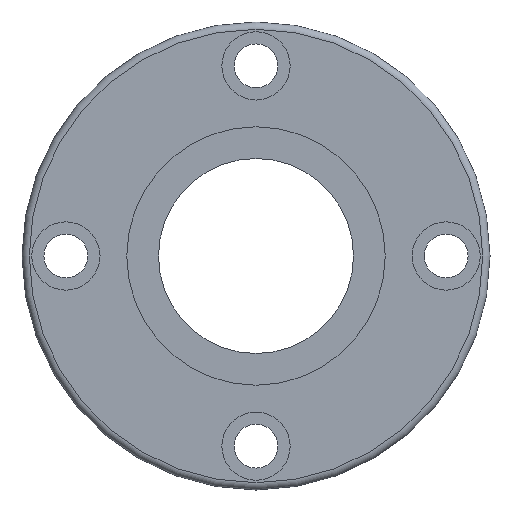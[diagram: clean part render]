
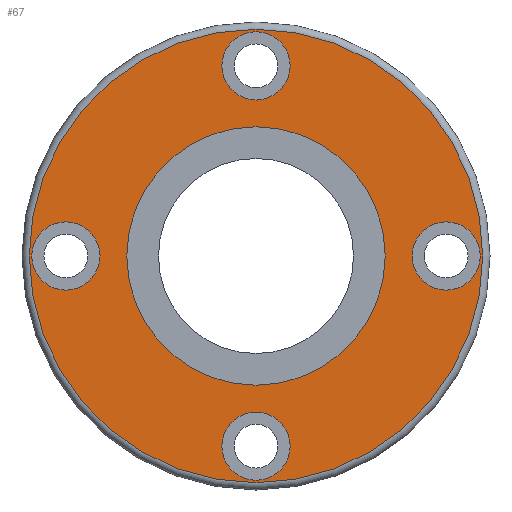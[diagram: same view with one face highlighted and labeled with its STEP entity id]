
A CAD part, left-side view. The second image highlights one B-rep face of the part: STEP entity #67.
In plain terms, the highlighted planar face has unit normal (-1, 0, 0).
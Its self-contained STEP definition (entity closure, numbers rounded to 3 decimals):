
#67 = ADVANCED_FACE( '', ( #154, #155, #156, #157, #158, #159 ), #160, .T. );
#154 = FACE_BOUND( '', #277, .T. );
#155 = FACE_BOUND( '', #278, .T. );
#156 = FACE_BOUND( '', #279, .T. );
#157 = FACE_BOUND( '', #280, .T. );
#158 = FACE_BOUND( '', #281, .T. );
#159 = FACE_OUTER_BOUND( '', #282, .T. );
#160 = PLANE( '', #283 );
#277 = EDGE_LOOP( '', ( #410 ) );
#278 = EDGE_LOOP( '', ( #411 ) );
#279 = EDGE_LOOP( '', ( #412 ) );
#280 = EDGE_LOOP( '', ( #413 ) );
#281 = EDGE_LOOP( '', ( #414 ) );
#282 = EDGE_LOOP( '', ( #415 ) );
#283 = AXIS2_PLACEMENT_3D( '', #416, #417, #418 );
#410 = ORIENTED_EDGE( '', *, *, #554, .T. );
#411 = ORIENTED_EDGE( '', *, *, #555, .T. );
#412 = ORIENTED_EDGE( '', *, *, #544, .T. );
#413 = ORIENTED_EDGE( '', *, *, #556, .T. );
#414 = ORIENTED_EDGE( '', *, *, #557, .F. );
#415 = ORIENTED_EDGE( '', *, *, #558, .T. );
#416 = CARTESIAN_POINT( '', ( 0., 37.15, 0. ) );
#417 = DIRECTION( '', ( -1., 0., 0. ) );
#418 = DIRECTION( '', ( 0., 1., 0. ) );
#544 = EDGE_CURVE( '', #610, #610, #611, .T. );
#554 = EDGE_CURVE( '', #626, #626, #627, .T. );
#555 = EDGE_CURVE( '', #628, #628, #629, .T. );
#556 = EDGE_CURVE( '', #630, #630, #631, .T. );
#557 = EDGE_CURVE( '', #632, #632, #633, .T. );
#558 = EDGE_CURVE( '', #634, #634, #635, .T. );
#610 = VERTEX_POINT( '', #699 );
#611 = CIRCLE( '', #700, 7. );
#626 = VERTEX_POINT( '', #715 );
#627 = CIRCLE( '', #716, 7. );
#628 = VERTEX_POINT( '', #717 );
#629 = CIRCLE( '', #718, 7. );
#630 = VERTEX_POINT( '', #719 );
#631 = CIRCLE( '', #720, 7. );
#632 = VERTEX_POINT( '', #721 );
#633 = CIRCLE( '', #722, 26.5 );
#634 = VERTEX_POINT( '', #723 );
#635 = CIRCLE( '', #724, 46.5 );
#699 = CARTESIAN_POINT( '', ( 0., -46., 0. ) );
#700 = AXIS2_PLACEMENT_3D( '', #791, #792, #793 );
#715 = CARTESIAN_POINT( '', ( 0., 0., -46. ) );
#716 = AXIS2_PLACEMENT_3D( '', #809, #810, #811 );
#717 = CARTESIAN_POINT( '', ( 0., 0., 46. ) );
#718 = AXIS2_PLACEMENT_3D( '', #812, #813, #814 );
#719 = CARTESIAN_POINT( '', ( 0., 46., 0. ) );
#720 = AXIS2_PLACEMENT_3D( '', #815, #816, #817 );
#721 = CARTESIAN_POINT( '', ( 0., 26.5, 0. ) );
#722 = AXIS2_PLACEMENT_3D( '', #818, #819, #820 );
#723 = CARTESIAN_POINT( '', ( 0., 46.5, 0. ) );
#724 = AXIS2_PLACEMENT_3D( '', #821, #822, #823 );
#791 = CARTESIAN_POINT( '', ( 0., -39., 0. ) );
#792 = DIRECTION( '', ( 1., 0., 0. ) );
#793 = DIRECTION( '', ( 0., -1., 0. ) );
#809 = CARTESIAN_POINT( '', ( 0., 0., -39. ) );
#810 = DIRECTION( '', ( 1., 0., 0. ) );
#811 = DIRECTION( '', ( 0., 0., -1. ) );
#812 = CARTESIAN_POINT( '', ( 0., 0., 39. ) );
#813 = DIRECTION( '', ( 1., 0., 0. ) );
#814 = DIRECTION( '', ( 0., 0., 1. ) );
#815 = CARTESIAN_POINT( '', ( 0., 39., 0. ) );
#816 = DIRECTION( '', ( 1., 0., 0. ) );
#817 = DIRECTION( '', ( 0., 1., 0. ) );
#818 = CARTESIAN_POINT( '', ( 0., 0., 0. ) );
#819 = DIRECTION( '', ( -1., 0., 0. ) );
#820 = DIRECTION( '', ( 0., 1., 0. ) );
#821 = CARTESIAN_POINT( '', ( 0., 0., 0. ) );
#822 = DIRECTION( '', ( -1., 0., 0. ) );
#823 = DIRECTION( '', ( 0., 0., 1. ) );
